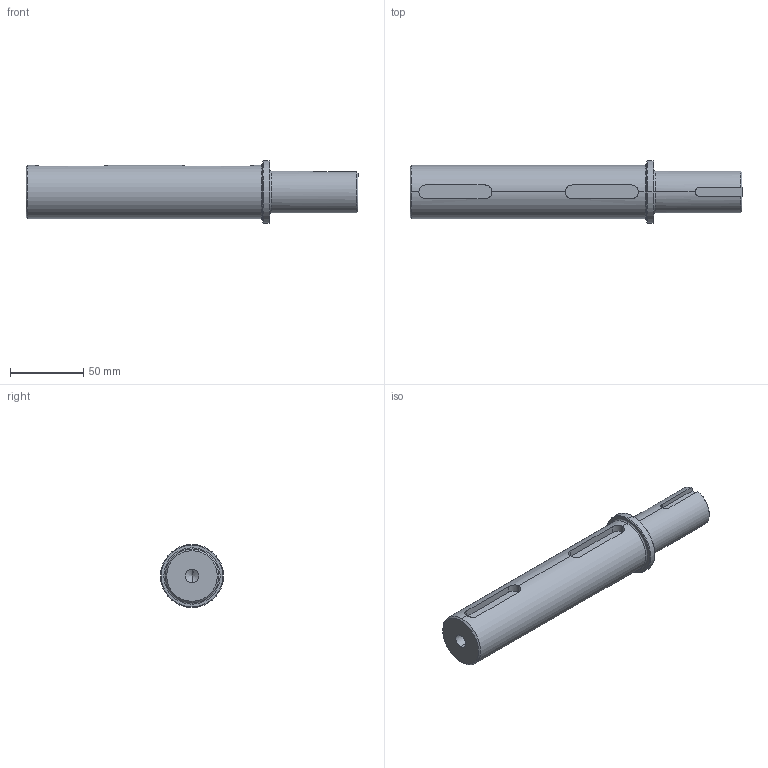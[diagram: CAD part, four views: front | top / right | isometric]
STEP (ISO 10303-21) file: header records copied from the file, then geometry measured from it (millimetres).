
FILE_DESCRIPTION (( 'STEP AP203' ), '1' );
FILE_NAME ('SSHdR237-OPS-S.STEP', '2023-01-07T03:01:16', ( '' ), ( '' ), 'SwSTEP 2.0', 'SolidWorks 2012', '' );
FILE_SCHEMA (( 'CONFIG_CONTROL_DESIGN' ));
Length unit declared in the file: millimetre
Products named in the file (1): SSHdR237-OPS-S
Bounding box: 226.7 x 43 x 43 mm (x, y, z)
Volume: 207471.3 mm3; surface area: 29303.3 mm2
Topology: 1 solids, 1 shells, 41 faces, 97 edges, 59 vertices
Faces by surface type: cylinder 15, plane 13, cone 9, torus 4
Entity records: 1392 total; most frequent: CARTESIAN_POINT 372, DIRECTION 205, ORIENTED_EDGE 190, EDGE_CURVE 95, AXIS2_PLACEMENT_3D 80, VERTEX_POINT 59, LINE 45, VECTOR 45
